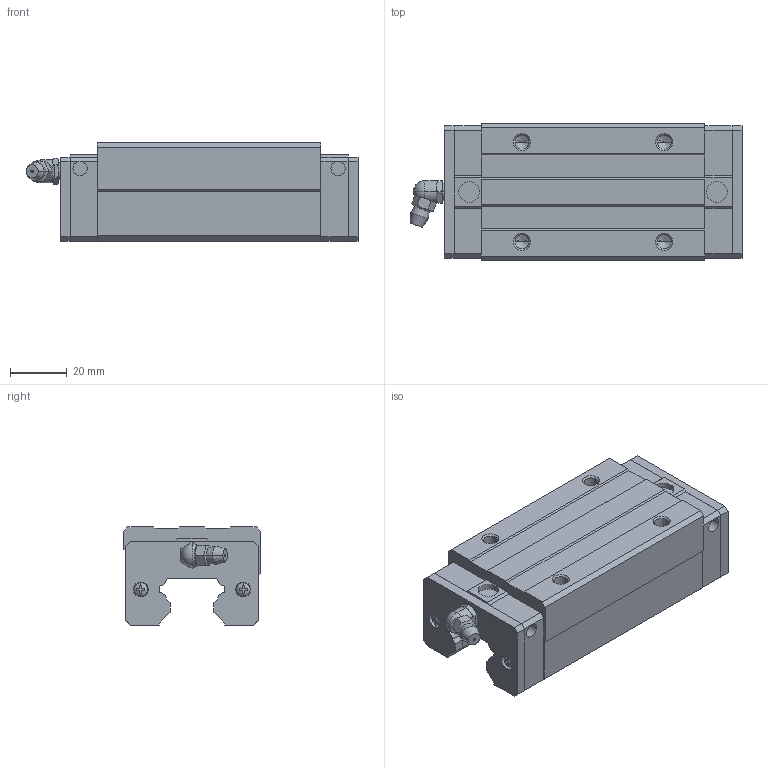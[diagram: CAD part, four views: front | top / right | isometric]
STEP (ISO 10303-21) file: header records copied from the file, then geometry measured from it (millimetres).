
FILE_DESCRIPTION(('starvars output'),'2;1');
FILE_NAME('cv20190625223255000108099.stp','22:32:55 2019/06/25',( 'Thomas Industrial Network Germany GmbH'),( 'Thomas Industrial Network Germany GmbH'),'unknown preprocess','ACIS' ,'unknown authorization');
FILE_SCHEMA(('CONFIG_CONTROL_DESIGN {UNKNOWN IMPLEMENTATION LEVEL}'));
Length unit declared in the file: millimetre
Products named in the file (10): PRODUCT_ID_1; PRODUCT_ID_2; PRODUCT_ID_3; PRODUCT_ID_4; PRODUCT_ID_5; PRODUCT_ID_6; PRODUCT_ID_7; PRODUCT_ID_8; PRODUCT_ID_9; PRODUCT_ID_10
Bounding box: 116.6 x 48 x 34.5 mm (x, y, z)
Volume: 129684.3 mm3; surface area: 33710.3 mm2
Topology: 10 solids, 10 shells, 397 faces, 1016 edges, 644 vertices
Faces by surface type: plane 250, cylinder 71, cone 64, sphere 12
Entity records: 11465 total; most frequent: ORIENTED_EDGE 2008, CARTESIAN_POINT 1877, DIRECTION 1563, EDGE_CURVE 1004, VECTOR 651, LINE 651, VERTEX_POINT 644, AXIS2_PLACEMENT_3D 456
